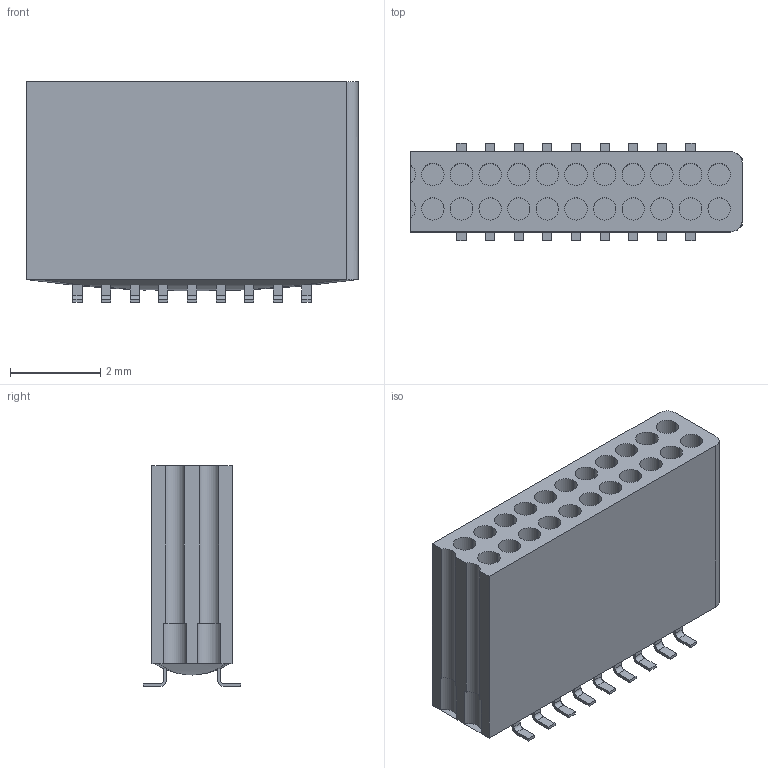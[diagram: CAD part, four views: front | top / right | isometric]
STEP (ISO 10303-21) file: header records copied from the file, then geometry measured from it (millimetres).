
FILE_DESCRIPTION (( 'STEP AP214' ), '1' );
FILE_NAME ('A79010-001 REV D.STEP', '2015-11-05T19:34:58', ( '' ), ( '' ), 'SwSTEP 2.0', 'SolidWorks 2015', '' );
FILE_SCHEMA (( 'AUTOMOTIVE_DESIGN' ));
Length unit declared in the file: inch
Products named in the file (1): A79010-001
Bounding box: 7.37 x 2.16 x 4.9 mm (x, y, z)
Volume: 38.8 mm3; surface area: 273.8 mm2
Topology: 1 solids, 1 shells, 480 faces, 1211 edges, 799 vertices
Faces by surface type: plane 294, cylinder 134, bspline 52
Entity records: 16949 total; most frequent: CARTESIAN_POINT 5491, ORIENTED_EDGE 2414, DIRECTION 2227, EDGE_CURVE 1207, VERTEX_POINT 799, LINE 781, VECTOR 781, AXIS2_PLACEMENT_3D 723
